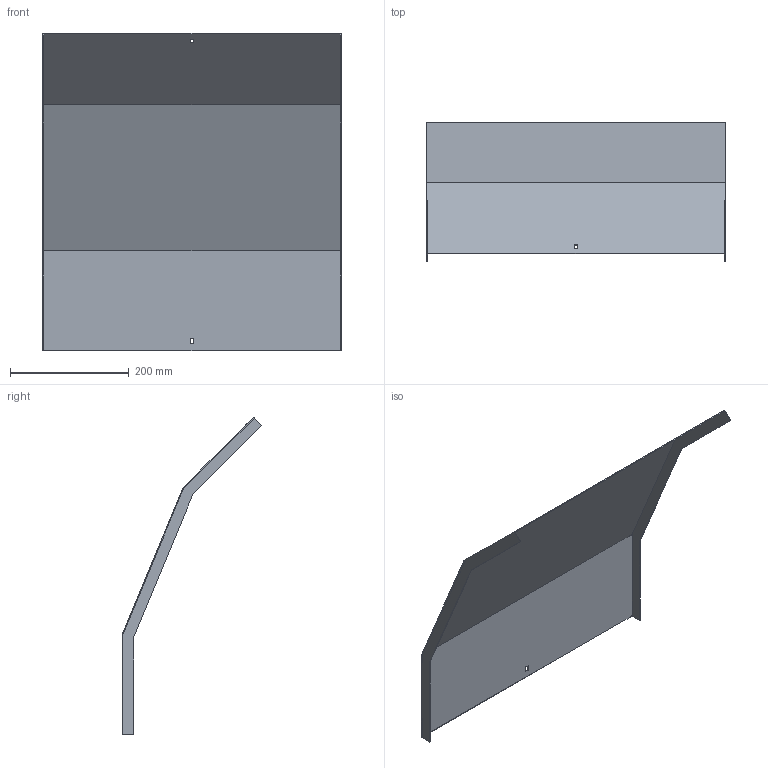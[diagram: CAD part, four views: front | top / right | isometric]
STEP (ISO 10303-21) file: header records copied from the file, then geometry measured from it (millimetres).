
FILE_DESCRIPTION (( 'STEP AP214' ), '1' );
FILE_NAME ('A2_34N3C500.step', '2025-02-21T10:34:22', ( '' ), ( '' ), 'SwSTEP 2.0', 'SolidWorks 2023', '' );
FILE_SCHEMA (( 'AUTOMOTIVE_DESIGN' ));
Length unit declared in the file: millimetre
Products named in the file (1): A2_34N3C500
Bounding box: 503 x 235.79 x 535.1 mm (x, y, z)
Volume: 488879.1 mm3; surface area: 655320.6 mm2
Topology: 1 solids, 1 shells, 26 faces, 72 edges, 48 vertices
Faces by surface type: plane 26
Entity records: 847 total; most frequent: CARTESIAN_POINT 147, ORIENTED_EDGE 144, DIRECTION 126, LINE 72, VECTOR 72, EDGE_CURVE 72, VERTEX_POINT 48, EDGE_LOOP 30
